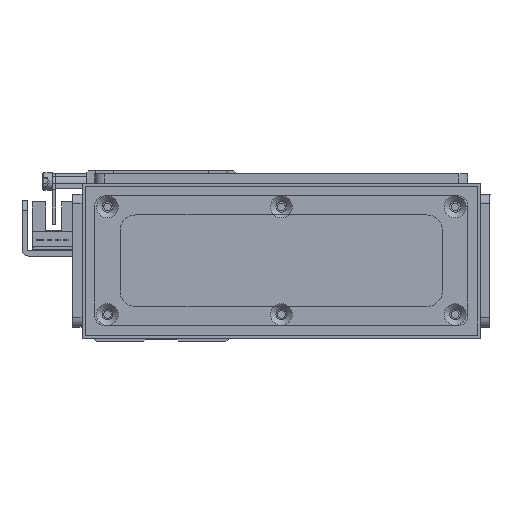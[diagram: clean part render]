
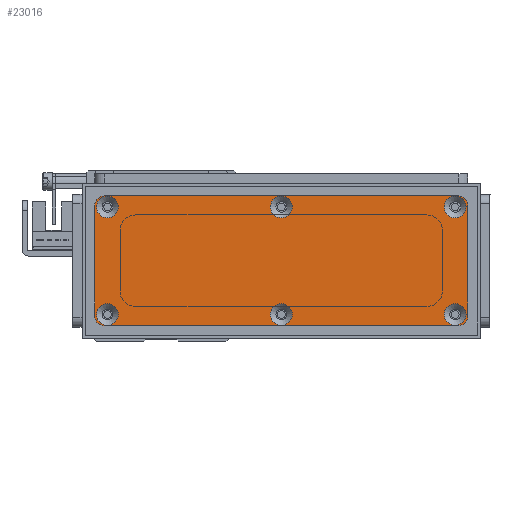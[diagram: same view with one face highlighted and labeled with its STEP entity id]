
A CAD part, front view. The second image highlights one B-rep face of the part: STEP entity #23016.
In plain terms, the highlighted planar face has unit normal (0, -1, 0) as drawn and (0, 0, 1) by its records, which use the part's own axes.
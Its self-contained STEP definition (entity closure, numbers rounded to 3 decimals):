
#794=FACE_BOUND('',#3933,.T.);
#795=FACE_BOUND('',#3934,.T.);
#796=FACE_BOUND('',#3935,.T.);
#797=FACE_BOUND('',#3936,.T.);
#798=FACE_BOUND('',#3937,.T.);
#799=FACE_BOUND('',#3938,.T.);
#1399=PLANE('',#25481);
#2432=FACE_OUTER_BOUND('',#3932,.T.);
#3932=EDGE_LOOP('',(#19538,#19539,#19540,#19541,#19542,#19543,#19544,#19545));
#3933=EDGE_LOOP('',(#19546));
#3934=EDGE_LOOP('',(#19547));
#3935=EDGE_LOOP('',(#19548));
#3936=EDGE_LOOP('',(#19549));
#3937=EDGE_LOOP('',(#19550));
#3938=EDGE_LOOP('',(#19551));
#5932=LINE('',#38641,#8083);
#5936=LINE('',#38653,#8087);
#5940=LINE('',#38665,#8091);
#5944=LINE('',#38675,#8095);
#8083=VECTOR('',#30697,10.);
#8087=VECTOR('',#30709,10.);
#8091=VECTOR('',#30721,10.);
#8095=VECTOR('',#30733,10.);
#9421=CIRCLE('',#25435,3.45);
#9424=CIRCLE('',#25440,3.45);
#9427=CIRCLE('',#25445,3.45);
#9430=CIRCLE('',#25450,3.45);
#9433=CIRCLE('',#25455,3.45);
#9436=CIRCLE('',#25460,3.45);
#9440=CIRCLE('',#25466,3.);
#9442=CIRCLE('',#25470,3.);
#9444=CIRCLE('',#25474,3.);
#9446=CIRCLE('',#25478,3.);
#11216=VERTEX_POINT('',#38569);
#11219=VERTEX_POINT('',#38579);
#11222=VERTEX_POINT('',#38589);
#11225=VERTEX_POINT('',#38599);
#11228=VERTEX_POINT('',#38609);
#11231=VERTEX_POINT('',#38619);
#11236=VERTEX_POINT('',#38632);
#11237=VERTEX_POINT('',#38634);
#11239=VERTEX_POINT('',#38640);
#11241=VERTEX_POINT('',#38646);
#11243=VERTEX_POINT('',#38652);
#11245=VERTEX_POINT('',#38658);
#11247=VERTEX_POINT('',#38664);
#11249=VERTEX_POINT('',#38670);
#14083=EDGE_CURVE('',#11216,#11216,#9421,.T.);
#14088=EDGE_CURVE('',#11219,#11219,#9424,.T.);
#14093=EDGE_CURVE('',#11222,#11222,#9427,.T.);
#14098=EDGE_CURVE('',#11225,#11225,#9430,.T.);
#14103=EDGE_CURVE('',#11228,#11228,#9433,.T.);
#14108=EDGE_CURVE('',#11231,#11231,#9436,.T.);
#14115=EDGE_CURVE('',#11237,#11236,#9440,.T.);
#14118=EDGE_CURVE('',#11239,#11237,#5932,.T.);
#14121=EDGE_CURVE('',#11241,#11239,#9442,.T.);
#14124=EDGE_CURVE('',#11243,#11241,#5936,.T.);
#14127=EDGE_CURVE('',#11245,#11243,#9444,.T.);
#14130=EDGE_CURVE('',#11247,#11245,#5940,.T.);
#14133=EDGE_CURVE('',#11249,#11247,#9446,.T.);
#14136=EDGE_CURVE('',#11236,#11249,#5944,.T.);
#19538=ORIENTED_EDGE('',*,*,#14136,.T.);
#19539=ORIENTED_EDGE('',*,*,#14133,.T.);
#19540=ORIENTED_EDGE('',*,*,#14130,.T.);
#19541=ORIENTED_EDGE('',*,*,#14127,.T.);
#19542=ORIENTED_EDGE('',*,*,#14124,.T.);
#19543=ORIENTED_EDGE('',*,*,#14121,.T.);
#19544=ORIENTED_EDGE('',*,*,#14118,.T.);
#19545=ORIENTED_EDGE('',*,*,#14115,.T.);
#19546=ORIENTED_EDGE('',*,*,#14083,.T.);
#19547=ORIENTED_EDGE('',*,*,#14088,.T.);
#19548=ORIENTED_EDGE('',*,*,#14093,.T.);
#19549=ORIENTED_EDGE('',*,*,#14098,.T.);
#19550=ORIENTED_EDGE('',*,*,#14103,.T.);
#19551=ORIENTED_EDGE('',*,*,#14108,.T.);
#23016=ADVANCED_FACE('',(#2432,#794,#795,#796,#797,#798,#799),#1399,.T.);
#25435=AXIS2_PLACEMENT_3D('',#38570,#30616,#30617);
#25440=AXIS2_PLACEMENT_3D('',#38580,#30628,#30629);
#25445=AXIS2_PLACEMENT_3D('',#38590,#30640,#30641);
#25450=AXIS2_PLACEMENT_3D('',#38600,#30652,#30653);
#25455=AXIS2_PLACEMENT_3D('',#38610,#30664,#30665);
#25460=AXIS2_PLACEMENT_3D('',#38620,#30676,#30677);
#25466=AXIS2_PLACEMENT_3D('',#38635,#30691,#30692);
#25470=AXIS2_PLACEMENT_3D('',#38647,#30703,#30704);
#25474=AXIS2_PLACEMENT_3D('',#38659,#30715,#30716);
#25478=AXIS2_PLACEMENT_3D('',#38671,#30727,#30728);
#25481=AXIS2_PLACEMENT_3D('',#38677,#30736,#30737);
#30616=DIRECTION('center_axis',(0.,0.,-1.));
#30617=DIRECTION('ref_axis',(1.,0.,0.));
#30628=DIRECTION('center_axis',(0.,0.,-1.));
#30629=DIRECTION('ref_axis',(1.,0.,0.));
#30640=DIRECTION('center_axis',(0.,0.,-1.));
#30641=DIRECTION('ref_axis',(1.,0.,0.));
#30652=DIRECTION('center_axis',(0.,0.,-1.));
#30653=DIRECTION('ref_axis',(1.,0.,0.));
#30664=DIRECTION('center_axis',(0.,0.,-1.));
#30665=DIRECTION('ref_axis',(1.,0.,0.));
#30676=DIRECTION('center_axis',(0.,0.,-1.));
#30677=DIRECTION('ref_axis',(1.,0.,0.));
#30691=DIRECTION('center_axis',(0.,0.,1.));
#30692=DIRECTION('ref_axis',(-1.,0.,0.));
#30697=DIRECTION('',(0.,1.,0.));
#30703=DIRECTION('center_axis',(0.,0.,1.));
#30704=DIRECTION('ref_axis',(0.,1.,0.));
#30709=DIRECTION('',(1.,0.,0.));
#30715=DIRECTION('center_axis',(0.,0.,1.));
#30716=DIRECTION('ref_axis',(1.,0.,0.));
#30721=DIRECTION('',(0.,-1.,0.));
#30727=DIRECTION('center_axis',(0.,0.,1.));
#30728=DIRECTION('ref_axis',(0.,-1.,0.));
#30733=DIRECTION('',(-1.,0.,0.));
#30736=DIRECTION('center_axis',(0.,0.,1.));
#30737=DIRECTION('ref_axis',(1.,0.,0.));
#38569=CARTESIAN_POINT('',(110.55,3.5,3.));
#38570=CARTESIAN_POINT('Origin',(114.,3.5,3.));
#38579=CARTESIAN_POINT('',(55.55,37.5,3.));
#38580=CARTESIAN_POINT('Origin',(59.,37.5,3.));
#38589=CARTESIAN_POINT('',(55.55,3.5,3.));
#38590=CARTESIAN_POINT('Origin',(59.,3.5,3.));
#38599=CARTESIAN_POINT('',(0.55,37.5,3.));
#38600=CARTESIAN_POINT('Origin',(4.,37.5,3.));
#38609=CARTESIAN_POINT('',(110.55,37.5,3.));
#38610=CARTESIAN_POINT('Origin',(114.,37.5,3.));
#38619=CARTESIAN_POINT('',(0.55,3.5,3.));
#38620=CARTESIAN_POINT('Origin',(4.,3.5,3.));
#38632=CARTESIAN_POINT('',(115.,41.,3.));
#38634=CARTESIAN_POINT('',(118.,38.,3.));
#38635=CARTESIAN_POINT('Origin',(115.,38.,3.));
#38640=CARTESIAN_POINT('',(118.,3.,3.));
#38641=CARTESIAN_POINT('',(118.,38.,3.));
#38646=CARTESIAN_POINT('',(115.,0.,3.));
#38647=CARTESIAN_POINT('Origin',(115.,3.,3.));
#38652=CARTESIAN_POINT('',(3.,0.,3.));
#38653=CARTESIAN_POINT('',(115.,0.,3.));
#38658=CARTESIAN_POINT('',(0.,3.,3.));
#38659=CARTESIAN_POINT('Origin',(3.,3.,3.));
#38664=CARTESIAN_POINT('',(0.,38.,3.));
#38665=CARTESIAN_POINT('',(0.,3.,3.));
#38670=CARTESIAN_POINT('',(3.,41.,3.));
#38671=CARTESIAN_POINT('Origin',(3.,38.,3.));
#38675=CARTESIAN_POINT('',(3.,41.,3.));
#38677=CARTESIAN_POINT('Origin',(59.,20.5,3.));
